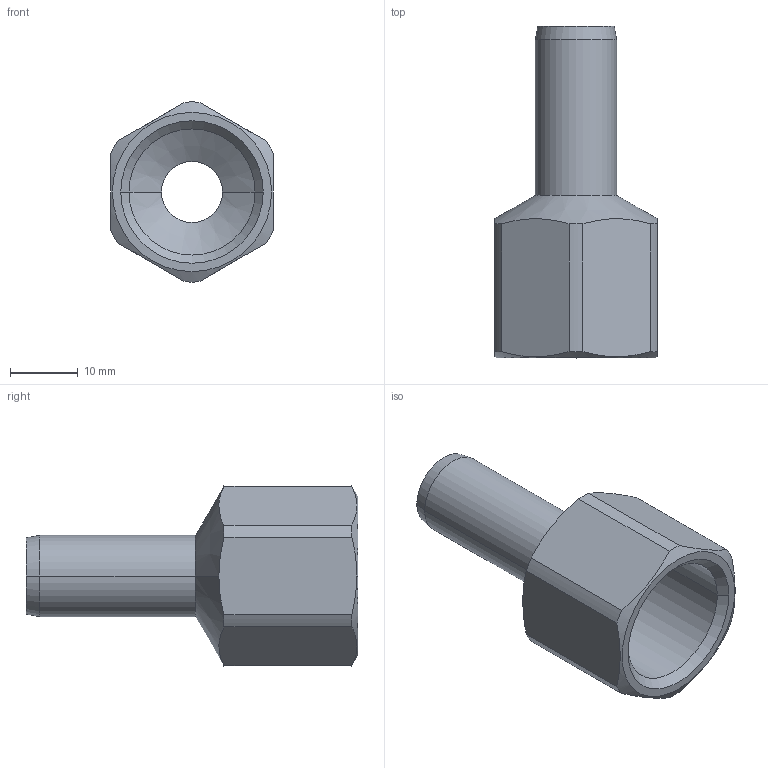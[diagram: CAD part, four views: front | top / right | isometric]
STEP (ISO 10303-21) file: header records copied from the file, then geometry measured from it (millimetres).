
FILE_DESCRIPTION(('OneSpaceDesigner STEP Export'),'2;1');
FILE_NAME('C1433 12xRp1-2.stp','2010-06-15T16:34:26',(''),(''),'OneSpace Designer STEP processor for AP214 (Solid Model)','OneSpace Modeling 15.00A 14-Mar-2007 (C) CoCreate Software GmbH','');
FILE_SCHEMA(('AUTOMOTIVE_DESIGN { 1 0 10303 214 1 1 1 1 }'));
Length unit declared in the file: millimetre
Products named in the file (2): C1433_12xRp1-2
Assembly tree (1 placements, depth 2):
  C1433_12xRp1-2
    C1433_12xRp1-2
Bounding box: 24 x 49 x 26.59 mm (x, y, z)
Volume: 6545.2 mm3; surface area: 5329.3 mm2
Topology: 1 solids, 1 shells, 30 faces, 74 edges, 46 vertices
Faces by surface type: cylinder 12, cone 10, plane 8
Entity records: 1595 total; most frequent: CARTESIAN_POINT 954, ORIENTED_EDGE 148, DIRECTION 88, EDGE_CURVE 74, VERTEX_POINT 46, EDGE_LOOP 32, AXIS2_PLACEMENT_3D 30, FACE_OUTER_BOUND 30
